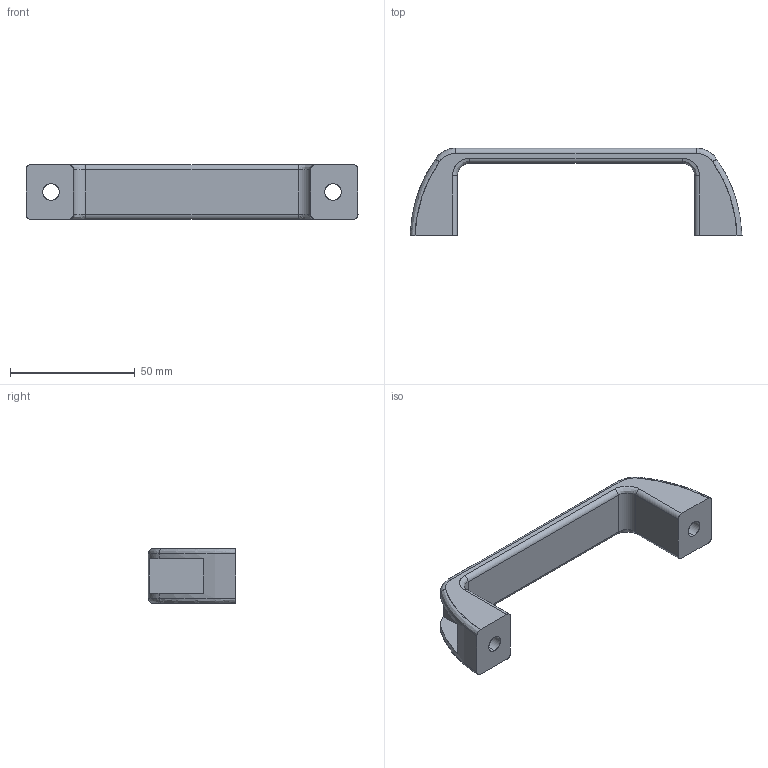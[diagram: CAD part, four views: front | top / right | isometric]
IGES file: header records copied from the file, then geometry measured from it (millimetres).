
Start section: SolidWorks IGES file using analytic representation for surfaces
Global section: file name: C:\Users\admin\Desktop\IGES\J3GB.igs; native system: SolidWorks 2014; preprocessor: SolidWorks 2014; author: admin_pc; date: 170524.165445; units: millimetre
Bounding box: 133 x 35 x 22 mm (x, y, z)
Surface area: 12353.6 mm2 (no closed solid volume)
Topology: 0 solids, 0 shells, 52 faces, 674 edges, 674 vertices
Faces by surface type: bspline 30, revolution 22
